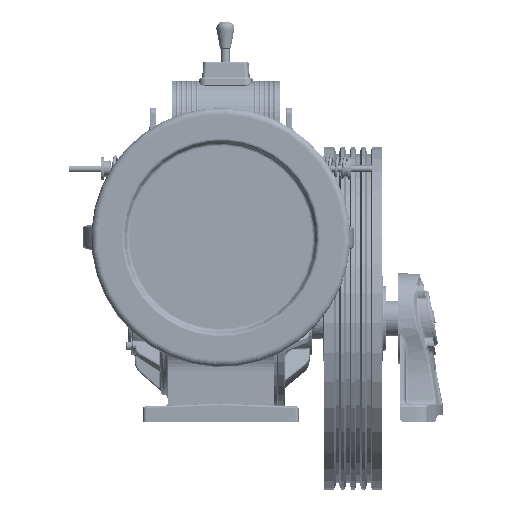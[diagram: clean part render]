
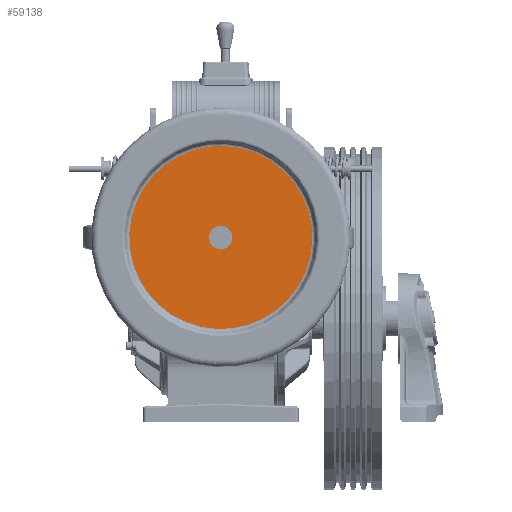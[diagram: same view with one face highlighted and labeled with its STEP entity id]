
A CAD part, front view. The second image highlights one B-rep face of the part: STEP entity #59138.
In plain terms, the highlighted planar face has unit normal (0, -1, 0).
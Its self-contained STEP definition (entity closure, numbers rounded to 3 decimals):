
#367 = DIRECTION ( 'NONE',  ( -0.051, 0., -0.999 ) ) ;
#6419 = DIRECTION ( 'NONE',  ( -0.051, 0., -0.999 ) ) ;
#6567 = VERTEX_POINT ( 'NONE', #121790 ) ;
#10666 = EDGE_CURVE ( 'NONE', #152792, #165955, #90781, .T. ) ;
#14499 = AXIS2_PLACEMENT_3D ( 'NONE', #155239, #105247, #6419 ) ;
#20761 = CARTESIAN_POINT ( 'NONE',  ( -291.009, -463.568, 1285.066 ) ) ;
#20998 = DIRECTION ( 'NONE',  ( -0.051, 0., -0.999 ) ) ;
#24406 = FACE_OUTER_BOUND ( 'NONE', #86589, .T. ) ;
#49614 = ORIENTED_EDGE ( 'NONE', *, *, #10666, .T. ) ;
#59138 = ADVANCED_FACE ( 'NONE', ( #24406, #121101 ), #123237, .T. ) ;
#62785 = ORIENTED_EDGE ( 'NONE', *, *, #181716, .F. ) ;
#73247 = CARTESIAN_POINT ( 'NONE',  ( -149.855, -463.568, 1277.825 ) ) ;
#74869 = AXIS2_PLACEMENT_3D ( 'NONE', #20761, #86973, #153280 ) ;
#79653 = CARTESIAN_POINT ( 'NONE',  ( -291.009, -463.568, 1285.066 ) ) ;
#80482 = CIRCLE ( 'NONE', #198536, 141.34 ) ;
#80708 = DIRECTION ( 'NONE',  ( 0., -1., 0. ) ) ;
#86589 = EDGE_LOOP ( 'NONE', ( #116628, #49614 ) ) ;
#86973 = DIRECTION ( 'NONE',  ( 0., -1., 0. ) ) ;
#89688 = EDGE_CURVE ( 'NONE', #191661, #6567, #182317, .T. ) ;
#90781 = CIRCLE ( 'NONE', #14499, 141.34 ) ;
#103511 = CARTESIAN_POINT ( 'NONE',  ( -291.009, -463.568, 1285.066 ) ) ;
#105247 = DIRECTION ( 'NONE',  ( 0., -1., 0. ) ) ;
#111114 = EDGE_LOOP ( 'NONE', ( #128990, #62785 ) ) ;
#116628 = ORIENTED_EDGE ( 'NONE', *, *, #187146, .T. ) ;
#121101 = FACE_BOUND ( 'NONE', #111114, .T. ) ;
#121790 = CARTESIAN_POINT ( 'NONE',  ( -291.937, -463.568, 1266.979 ) ) ;
#123237 = PLANE ( 'NONE',  #176995 ) ;
#128990 = ORIENTED_EDGE ( 'NONE', *, *, #89688, .F. ) ;
#130576 = CARTESIAN_POINT ( 'NONE',  ( -290.081, -463.568, 1303.153 ) ) ;
#131383 = AXIS2_PLACEMENT_3D ( 'NONE', #79653, #80708, #367 ) ;
#143016 = CARTESIAN_POINT ( 'NONE',  ( -283.768, -463.568, 1426.22 ) ) ;
#152792 = VERTEX_POINT ( 'NONE', #143016 ) ;
#153280 = DIRECTION ( 'NONE',  ( -0.051, 0., -0.999 ) ) ;
#155239 = CARTESIAN_POINT ( 'NONE',  ( -291.009, -463.568, 1285.066 ) ) ;
#165955 = VERTEX_POINT ( 'NONE', #199015 ) ;
#169537 = CIRCLE ( 'NONE', #131383, 18.111 ) ;
#176995 = AXIS2_PLACEMENT_3D ( 'NONE', #73247, #205813, #187300 ) ;
#181716 = EDGE_CURVE ( 'NONE', #6567, #191661, #169537, .T. ) ;
#182317 = CIRCLE ( 'NONE', #74869, 18.111 ) ;
#187146 = EDGE_CURVE ( 'NONE', #165955, #152792, #80482, .T. ) ;
#187300 = DIRECTION ( 'NONE',  ( -0.051, 0., -0.999 ) ) ;
#188172 = DIRECTION ( 'NONE',  ( 0., -1., 0. ) ) ;
#191661 = VERTEX_POINT ( 'NONE', #130576 ) ;
#198536 = AXIS2_PLACEMENT_3D ( 'NONE', #103511, #188172, #20998 ) ;
#199015 = CARTESIAN_POINT ( 'NONE',  ( -298.25, -463.568, 1143.912 ) ) ;
#205813 = DIRECTION ( 'NONE',  ( 0., -1., 0. ) ) ;
